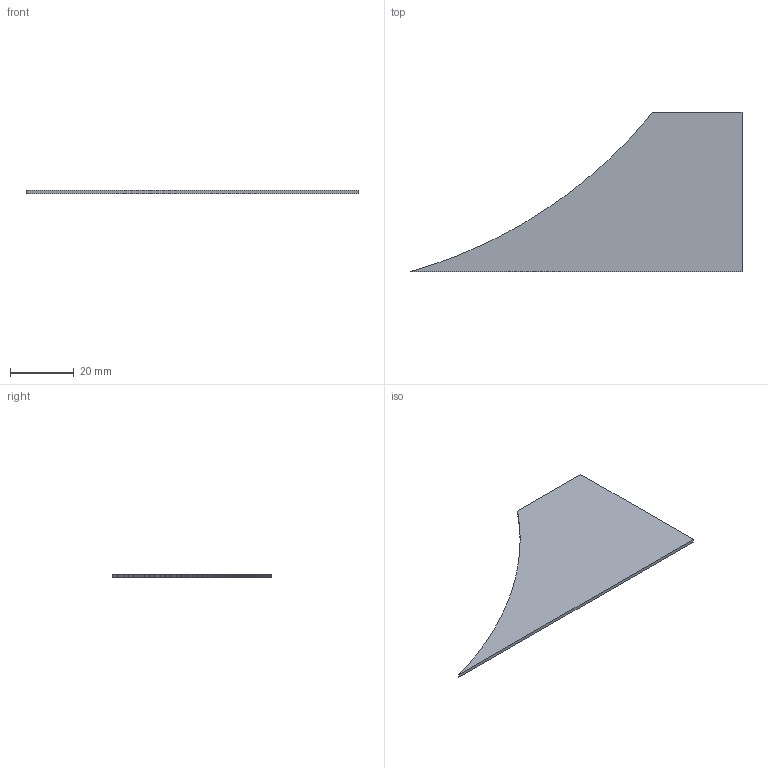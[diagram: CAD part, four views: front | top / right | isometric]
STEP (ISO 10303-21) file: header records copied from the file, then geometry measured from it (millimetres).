
FILE_DESCRIPTION(('Open CASCADE Model'),'2;1');
FILE_NAME('Open CASCADE Shape Model','2026-10-04T01:02:25',('Author'),( 'Open CASCADE'),'Open CASCADE STEP processor 8.0','Open CASCADE 8.0' ,'Unknown');
FILE_SCHEMA(('AUTOMOTIVE_DESIGN { 1 0 10303 214 1 1 1 1 }'));
Length unit declared in the file: millimetre
Products named in the file (1): Open CASCADE STEP translator 8.0 27
Bounding box: 104.31 x 50 x 1 mm (x, y, z)
Volume: 2881.4 mm3; surface area: 6037.9 mm2
Topology: 1 solids, 1 shells, 35 faces, 99 edges, 66 vertices
Faces by surface type: plane 35
Entity records: 2410 total; most frequent: CARTESIAN_POINT 399, DIRECTION 369, LINE 297, VECTOR 297, ORIENTED_EDGE 198, PCURVE 198, DEFINITIONAL_REPRESENTATION 198, EDGE_CURVE 99
